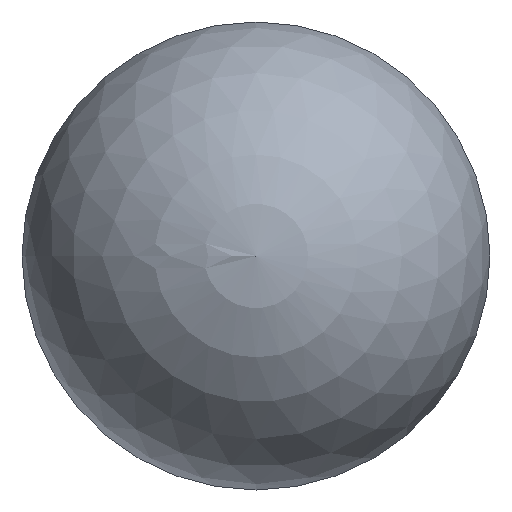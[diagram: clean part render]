
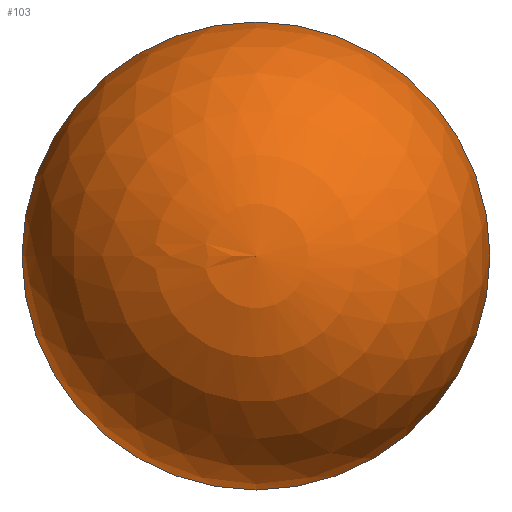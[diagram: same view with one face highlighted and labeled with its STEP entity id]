
A CAD part, left-side view. The second image highlights one B-rep face of the part: STEP entity #103.
In plain terms, the highlighted spherical face has radius 3 mm.
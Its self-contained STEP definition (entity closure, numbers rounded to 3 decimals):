
#101=SPHERICAL_SURFACE('',#134,3.);
#103=ADVANCED_FACE('',(#108),#101,.T.);
#108=FACE_OUTER_BOUND('',#110,.T.);
#110=EDGE_LOOP('',(#116));
#116=ORIENTED_EDGE('',*,*,#125,.T.);
#122=VERTEX_POINT('',#159);
#125=EDGE_CURVE('',#122,#122,#128,.T.);
#128=CIRCLE('',#133,3.);
#133=AXIS2_PLACEMENT_3D('',#158,#144,#145);
#134=AXIS2_PLACEMENT_3D('',#160,#146,#147);
#144=DIRECTION('',(-1.,0.,0.));
#145=DIRECTION('',(0.,-1.,0.));
#146=DIRECTION('',(-1.,0.,0.));
#147=DIRECTION('',(0.,1.,0.));
#158=CARTESIAN_POINT('',(7911.555,6118.428,0.));
#159=CARTESIAN_POINT('',(7911.555,6115.428,0.));
#160=CARTESIAN_POINT('',(7911.555,6118.428,0.));
